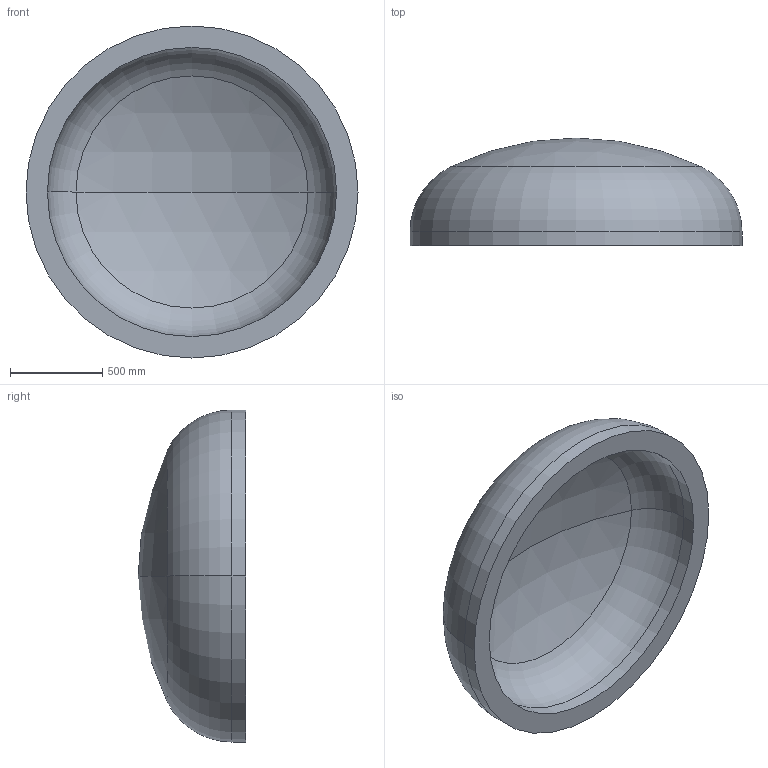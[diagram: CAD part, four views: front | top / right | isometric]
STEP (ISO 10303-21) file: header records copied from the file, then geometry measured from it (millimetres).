
FILE_DESCRIPTION (( 'STEP AP203' ), '1' );
FILE_NAME ('DIN 28013 Korbbogenform_-_Boden DIN 28013 - 1800 x 75 - I - s=116.step', '2016-07-01T12:48:50', ( '' ), ( '' ), 'SwSTEP 2.0', 'SolidWorks 2013', '' );
FILE_SCHEMA (( 'CONFIG_CONTROL_DESIGN' ));
Length unit declared in the file: millimetre
Products named in the file (1): DIN 28013 Korbbogenform_-_Boden DIN 28013 - 1800 x 75 - I - s=116
Bounding box: 1800 x 583.08 x 1800 mm (x, y, z)
Volume: 422100339.7 mm3; surface area: 7919463.7 mm2
Topology: 1 solids, 1 shells, 13 faces, 24 edges, 14 vertices
Faces by surface type: torus 4, cylinder 4, sphere 4, plane 1
Entity records: 407 total; most frequent: DIRECTION 72, CARTESIAN_POINT 52, ORIENTED_EDGE 48, AXIS2_PLACEMENT_3D 34, EDGE_CURVE 24, CIRCLE 20, VERTEX_POINT 14, EDGE_LOOP 14
